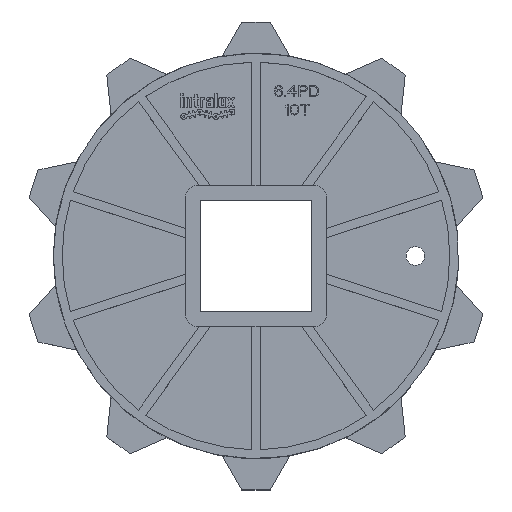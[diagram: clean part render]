
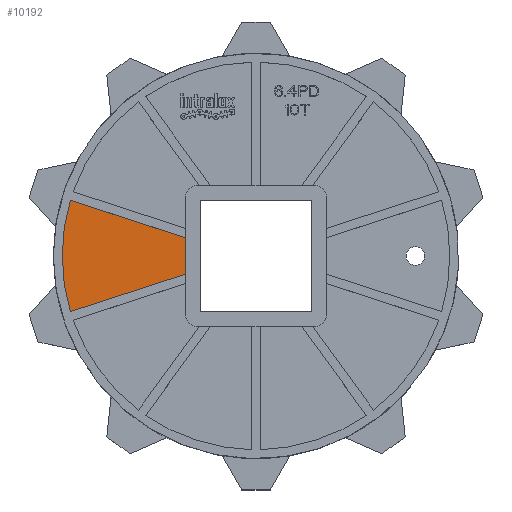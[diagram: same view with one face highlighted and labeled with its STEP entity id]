
A CAD part, top view. The second image highlights one B-rep face of the part: STEP entity #10192.
In plain terms, the highlighted planar face has unit normal (0, 0, 1).
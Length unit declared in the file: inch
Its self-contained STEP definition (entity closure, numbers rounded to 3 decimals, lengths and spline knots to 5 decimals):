
#790=DIRECTION('',(0.,-1.,0.));
#791=VECTOR('',#790,0.49117);
#792=CARTESIAN_POINT('',(-0.95,0.24559,0.09));
#793=LINE('',#792,#791);
#794=CARTESIAN_POINT('',(0.,0.,0.09));
#795=DIRECTION('',(0.,0.,-1.));
#796=DIRECTION('',(-0.958,-0.287,0.));
#797=AXIS2_PLACEMENT_3D('',#794,#795,#796);
#2644=DIRECTION('',(0.951,0.309,0.));
#2645=VECTOR('',#2644,1.6353);
#2646=CARTESIAN_POINT('',(-2.50526,-0.75092,0.09));
#2647=LINE('',#2646,#2645);
#2780=DIRECTION('',(-0.951,0.309,0.));
#2781=VECTOR('',#2780,1.6353);
#2782=CARTESIAN_POINT('',(-0.95,0.24559,0.09));
#2783=LINE('',#2782,#2781);
#7245=CARTESIAN_POINT('',(-0.95,0.24559,0.09));
#7246=CARTESIAN_POINT('',(-0.95,-0.24559,0.09));
#7247=VERTEX_POINT('',#7245);
#7248=VERTEX_POINT('',#7246);
#9019=CARTESIAN_POINT('',(-2.50526,0.75092,0.09));
#9020=VERTEX_POINT('',#9019);
#9025=CARTESIAN_POINT('',(-2.50526,-0.75092,0.09));
#9026=VERTEX_POINT('',#9025);
#10178=CARTESIAN_POINT('',(0.,0.,0.09));
#10179=DIRECTION('',(0.,0.,1.));
#10180=DIRECTION('',(0.809,0.588,0.));
#10181=AXIS2_PLACEMENT_3D('',#10178,#10179,#10180);
#10182=PLANE('',#10181);
#10183=ORIENTED_EDGE('',*,*,#10117,.T.);
#10185=ORIENTED_EDGE('',*,*,#10184,.F.);
#10187=ORIENTED_EDGE('',*,*,#10186,.T.);
#10189=ORIENTED_EDGE('',*,*,#10188,.F.);
#10190=EDGE_LOOP('',(#10183,#10185,#10187,#10189));
#10191=FACE_OUTER_BOUND('',#10190,.F.);
#10192=ADVANCED_FACE('',(#10191),#10182,.T.);
#798=CIRCLE('',#797,2.61538);
#10117=EDGE_CURVE('',#7247,#7248,#793,.T.);
#10184=EDGE_CURVE('',#9026,#7248,#2647,.T.);
#10186=EDGE_CURVE('',#9026,#9020,#798,.T.);
#10188=EDGE_CURVE('',#7247,#9020,#2783,.T.);
